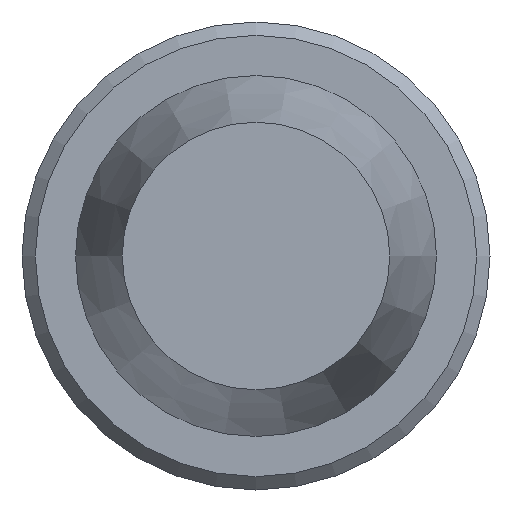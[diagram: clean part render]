
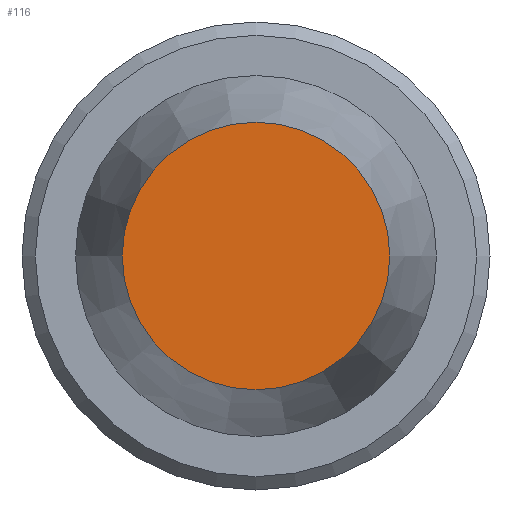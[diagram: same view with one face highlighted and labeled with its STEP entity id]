
A CAD part, left-side view. The second image highlights one B-rep face of the part: STEP entity #116.
In plain terms, the highlighted planar face has unit normal (-1, 0, 0).
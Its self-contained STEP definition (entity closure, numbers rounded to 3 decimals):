
#18=PLANE('',#151);
#26=FACE_OUTER_BOUND('',#35,.T.);
#35=EDGE_LOOP('',(#99));
#55=CIRCLE('',#152,2.);
#64=VERTEX_POINT('',#221);
#76=EDGE_CURVE('',#64,#64,#55,.T.);
#99=ORIENTED_EDGE('',*,*,#76,.F.);
#116=ADVANCED_FACE('',(#26),#18,.T.);
#151=AXIS2_PLACEMENT_3D('',#220,#185,#186);
#152=AXIS2_PLACEMENT_3D('',#222,#187,#188);
#185=DIRECTION('center_axis',(-1.,0.,0.));
#186=DIRECTION('ref_axis',(0.,0.,1.));
#187=DIRECTION('center_axis',(1.,0.,0.));
#188=DIRECTION('ref_axis',(0.,0.,-1.));
#220=CARTESIAN_POINT('Origin',(0.,2.,0.));
#221=CARTESIAN_POINT('',(0.,-2.,0.));
#222=CARTESIAN_POINT('Origin',(0.,0.,0.));
